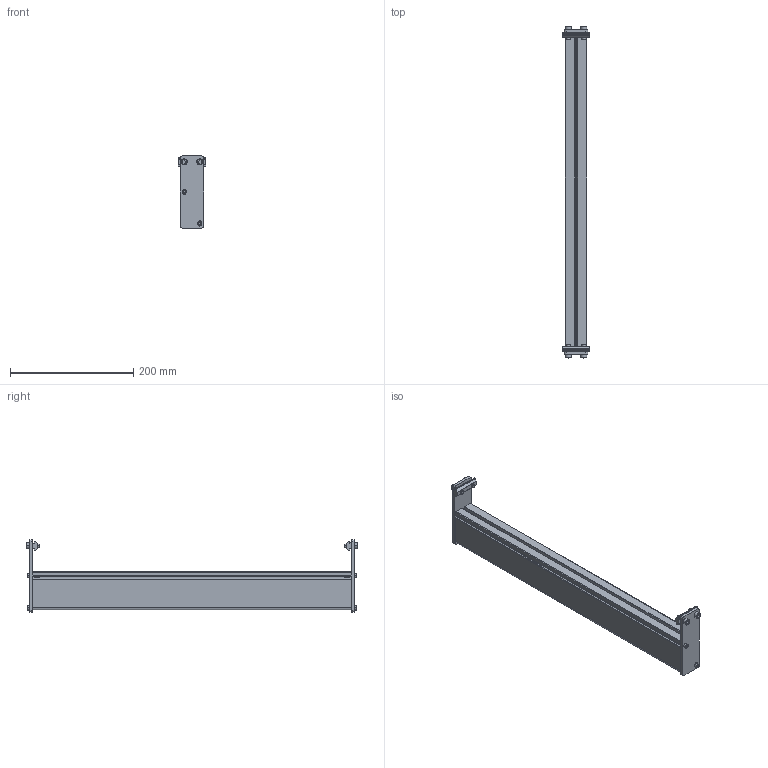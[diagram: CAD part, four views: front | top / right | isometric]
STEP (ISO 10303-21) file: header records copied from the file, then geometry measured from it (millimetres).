
FILE_DESCRIPTION((''),'2;1');
FILE_NAME('350974-20_ASM','2023-03-22T',('jenni.wallner'),(''),'PRO/ENGINEER BY PARAMETRIC TECHNOLOGY CORPORATION, 2012420','PRO/ENGINEER BY PARAMETRIC TECHNOLOGY CORPORATION, 2012420','');
FILE_SCHEMA(('CONFIG_CONTROL_DESIGN'));
Length unit declared in the file: inch
Products named in the file (6): 350979-02039; 350978; 200830M; 920616M; 920416M; 350974-20_ASM
Assembly tree (13 placements, depth 2):
  350974-20_ASM
    350979-02039
    350978  x2
    200830M  x2
    920616M  x4
    920416M  x4
Bounding box: 44.45 x 539 x 116.98 mm (x, y, z)
Volume: 459036.9 mm3; surface area: 292525.4 mm2
Topology: 13 solids, 17 shells, 342 faces, 868 edges, 568 vertices
Faces by surface type: plane 168, cylinder 142, cone 32
Entity records: 5990 total; most frequent: DIRECTION 1076, CARTESIAN_POINT 1015, ORIENTED_EDGE 972, EDGE_CURVE 490, AXIS2_PLACEMENT_3D 385, VERTEX_POINT 324, VECTOR 306, LINE 306
